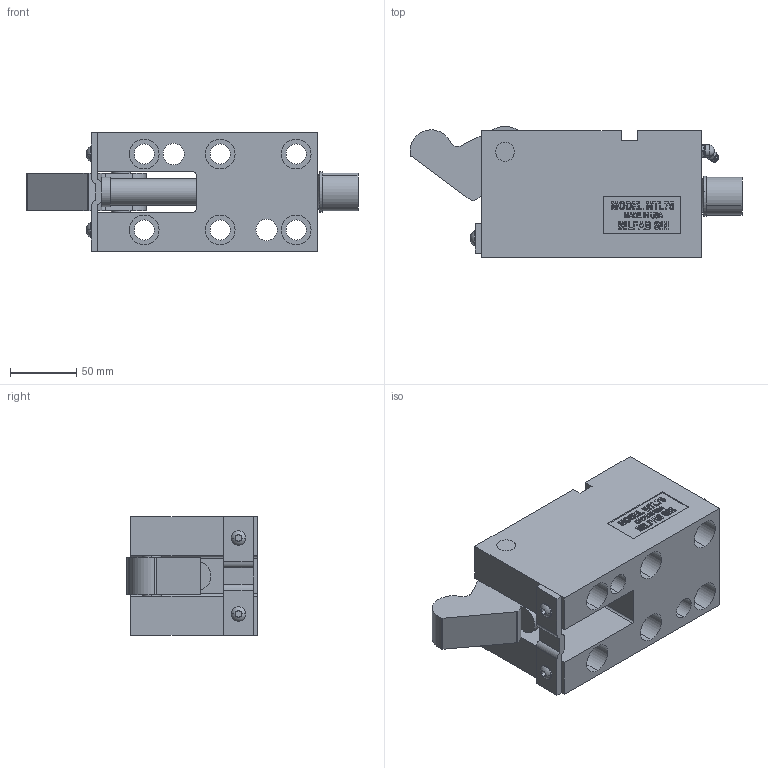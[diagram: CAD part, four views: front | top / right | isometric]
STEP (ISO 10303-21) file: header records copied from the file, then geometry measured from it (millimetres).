
FILE_DESCRIPTION (( 'STEP AP214' ), '1' );
FILE_NAME ('MTL7545-O.STEP', '2014-01-08T19:27:23', ( 'user' ), ( '' ), 'SwSTEP 2.0', 'SolidWorks 2009', '' );
FILE_SCHEMA (( 'AUTOMOTIVE_DESIGN' ));
Length unit declared in the file: inch
Products named in the file (11): 75-100-I-STRAP; 75-87-100 PIVOT PIN; 75-87-100-OFFSET TRIGGER; ML75-PUNCH; MTL75-BODY; MTL7545-O; 75 STRIPPER OPEN; GREASE ZERK; 1-4 SCREW; M-I-75-POINT; 75-WASHER
Assembly tree (11 placements, depth 2):
  MTL7545-O
    75-100-I-STRAP
    1-4 SCREW  x2
    75 STRIPPER OPEN
    GREASE ZERK
    75-WASHER
    MTL75-BODY
    M-I-75-POINT
    75-87-100-OFFSET TRIGGER
    ML75-PUNCH
    75-87-100 PIVOT PIN
Bounding box: 249.71 x 98.43 x 88.9 mm (x, y, z)
Volume: 1134968.1 mm3; surface area: 177414.3 mm2
Topology: 11 solids, 11 shells, 590 faces, 1520 edges, 998 vertices
Faces by surface type: plane 355, cylinder 109, bspline 72, cone 30, torus 20, sphere 4
Entity records: 22161 total; most frequent: CARTESIAN_POINT 8089, ORIENTED_EDGE 2952, DIRECTION 2524, EDGE_CURVE 1476, VECTOR 996, LINE 996, VERTEX_POINT 972, AXIS2_PLACEMENT_3D 764
